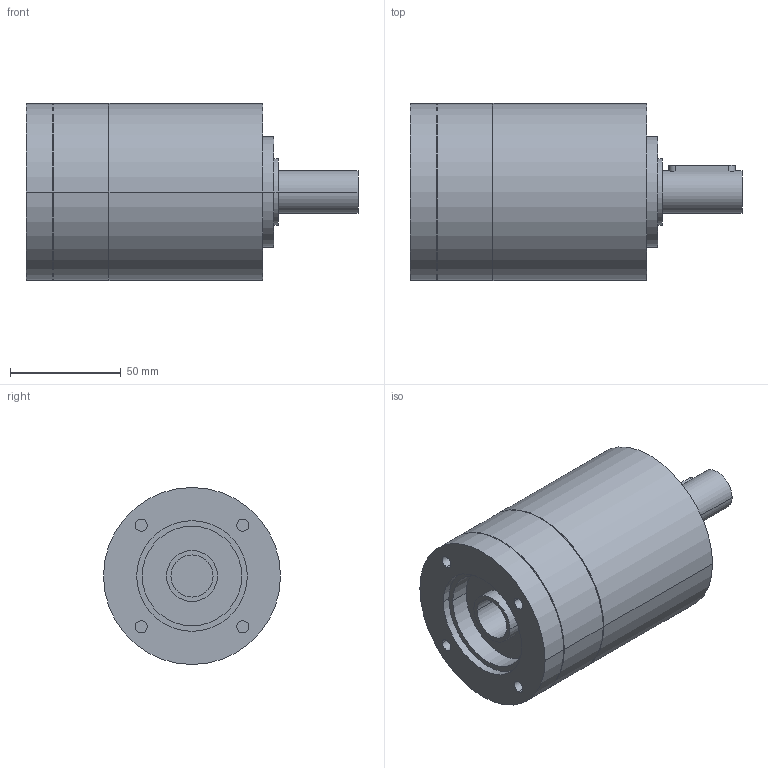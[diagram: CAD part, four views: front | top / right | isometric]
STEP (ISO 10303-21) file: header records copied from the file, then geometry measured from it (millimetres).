
FILE_DESCRIPTION(('CoCreate Modeling STEP Export'),'2;1');
FILE_NAME('GPR100_ig-3-4-5-6_19_B14_19_P10.stp','2014-08-26T10:08:38',(''),(''),'CoCreate Modeling STEP processor for AP214 (Solid Model)','CoCreate Modeling 16.00C 25-Feb-2009 (C) Parametric Technology GmbH','');
FILE_SCHEMA(('AUTOMOTIVE_DESIGN { 1 0 10303 214 1 1 1 1 }'));
Length unit declared in the file: millimetre
Products named in the file (2): GPR100_ig-3-4-5-6_19_B14_19_P10
Assembly tree (1 placements, depth 2):
  GPR100_ig-3-4-5-6_19_B14_19_P10
    GPR100_ig-3-4-5-6_19_B14_19_P10
Bounding box: 150 x 80 x 80 mm (x, y, z)
Volume: 527666.1 mm3; surface area: 47658.4 mm2
Topology: 1 solids, 1 shells, 80 faces, 204 edges, 146 vertices
Faces by surface type: cylinder 48, plane 26, cone 6
Entity records: 2036 total; most frequent: ORIENTED_EDGE 404, CARTESIAN_POINT 371, DIRECTION 262, EDGE_CURVE 202, VERTEX_POINT 146, EDGE_LOOP 102, AXIS2_PLACEMENT_3D 101, FACE_OUTER_BOUND 80
